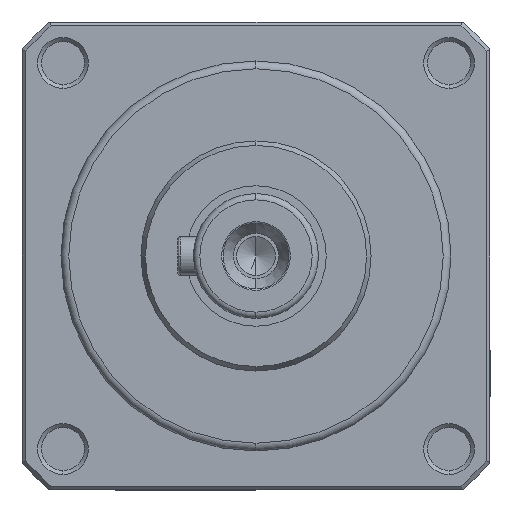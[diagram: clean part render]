
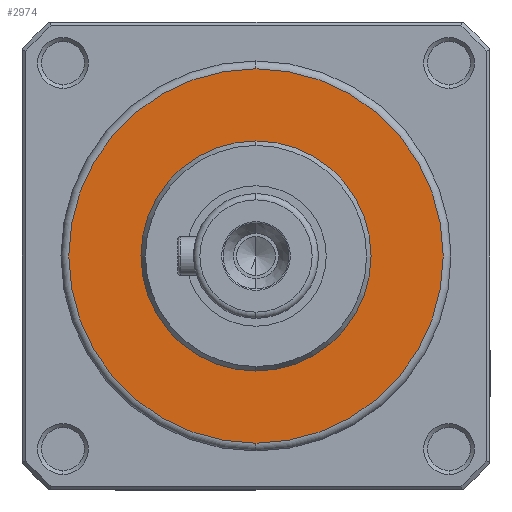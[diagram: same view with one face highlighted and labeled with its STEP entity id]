
A CAD part, left-side view. The second image highlights one B-rep face of the part: STEP entity #2974.
In plain terms, the highlighted planar face has unit normal (-1, 0, 0).
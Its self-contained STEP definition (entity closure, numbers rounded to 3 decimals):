
#211 = CARTESIAN_POINT ( 'NONE',  ( -120.088, 31.47, 24. ) ) ;
#468 = DIRECTION ( 'NONE',  ( 0., 0., -1. ) ) ;
#498 = CIRCLE ( 'NONE', #4450, 24. ) ;
#622 = ORIENTED_EDGE ( 'NONE', *, *, #3127, .T. ) ;
#638 = DIRECTION ( 'NONE',  ( -1., 0., 0. ) ) ;
#739 = VERTEX_POINT ( 'NONE', #7532 ) ;
#962 = ORIENTED_EDGE ( 'NONE', *, *, #8121, .F. ) ;
#1487 = DIRECTION ( 'NONE',  ( 0., 0., -1. ) ) ;
#1924 = EDGE_CURVE ( 'NONE', #3509, #739, #6875, .T. ) ;
#1929 = CARTESIAN_POINT ( 'NONE',  ( -120.088, 31.47, 0. ) ) ;
#1959 = AXIS2_PLACEMENT_3D ( 'NONE', #8933, #8967, #468 ) ;
#2421 = AXIS2_PLACEMENT_3D ( 'NONE', #1929, #8253, #6950 ) ;
#2452 = AXIS2_PLACEMENT_3D ( 'NONE', #5668, #638, #3475 ) ;
#2621 = EDGE_LOOP ( 'NONE', ( #622, #8498 ) ) ;
#2950 = FACE_OUTER_BOUND ( 'NONE', #2621, .T. ) ;
#2974 = ADVANCED_FACE ( 'NONE', ( #2950, #9053 ), #3986, .F. ) ;
#3127 = EDGE_CURVE ( 'NONE', #739, #3509, #498, .T. ) ;
#3475 = DIRECTION ( 'NONE',  ( 0., 0., -1. ) ) ;
#3509 = VERTEX_POINT ( 'NONE', #211 ) ;
#3841 = AXIS2_PLACEMENT_3D ( 'NONE', #4798, #5456, #8263 ) ;
#3986 = PLANE ( 'NONE',  #1959 ) ;
#4450 = AXIS2_PLACEMENT_3D ( 'NONE', #6995, #6387, #1487 ) ;
#4798 = CARTESIAN_POINT ( 'NONE',  ( -120.088, 31.47, 0. ) ) ;
#4912 = CARTESIAN_POINT ( 'NONE',  ( -120.088, 31.47, -14.75 ) ) ;
#5233 = CIRCLE ( 'NONE', #2421, 14.75 ) ;
#5456 = DIRECTION ( 'NONE',  ( -1., 0., 0. ) ) ;
#5624 = CARTESIAN_POINT ( 'NONE',  ( -120.088, 31.47, 14.75 ) ) ;
#5668 = CARTESIAN_POINT ( 'NONE',  ( -120.088, 31.47, 0. ) ) ;
#6387 = DIRECTION ( 'NONE',  ( -1., 0., 0. ) ) ;
#6875 = CIRCLE ( 'NONE', #2452, 24. ) ;
#6950 = DIRECTION ( 'NONE',  ( 0., 0., 1. ) ) ;
#6995 = CARTESIAN_POINT ( 'NONE',  ( -120.088, 31.47, 0. ) ) ;
#7277 = VERTEX_POINT ( 'NONE', #4912 ) ;
#7514 = EDGE_CURVE ( 'NONE', #7277, #8808, #7949, .T. ) ;
#7532 = CARTESIAN_POINT ( 'NONE',  ( -120.088, 31.47, -24. ) ) ;
#7949 = CIRCLE ( 'NONE', #3841, 14.75 ) ;
#8063 = ORIENTED_EDGE ( 'NONE', *, *, #7514, .F. ) ;
#8121 = EDGE_CURVE ( 'NONE', #8808, #7277, #5233, .T. ) ;
#8253 = DIRECTION ( 'NONE',  ( -1., 0., 0. ) ) ;
#8263 = DIRECTION ( 'NONE',  ( 0., 0., 1. ) ) ;
#8498 = ORIENTED_EDGE ( 'NONE', *, *, #1924, .T. ) ;
#8808 = VERTEX_POINT ( 'NONE', #5624 ) ;
#8883 = EDGE_LOOP ( 'NONE', ( #962, #8063 ) ) ;
#8933 = CARTESIAN_POINT ( 'NONE',  ( -120.088, 46.22, 0. ) ) ;
#8967 = DIRECTION ( 'NONE',  ( 1., 0., 0. ) ) ;
#9053 = FACE_BOUND ( 'NONE', #8883, .T. ) ;
